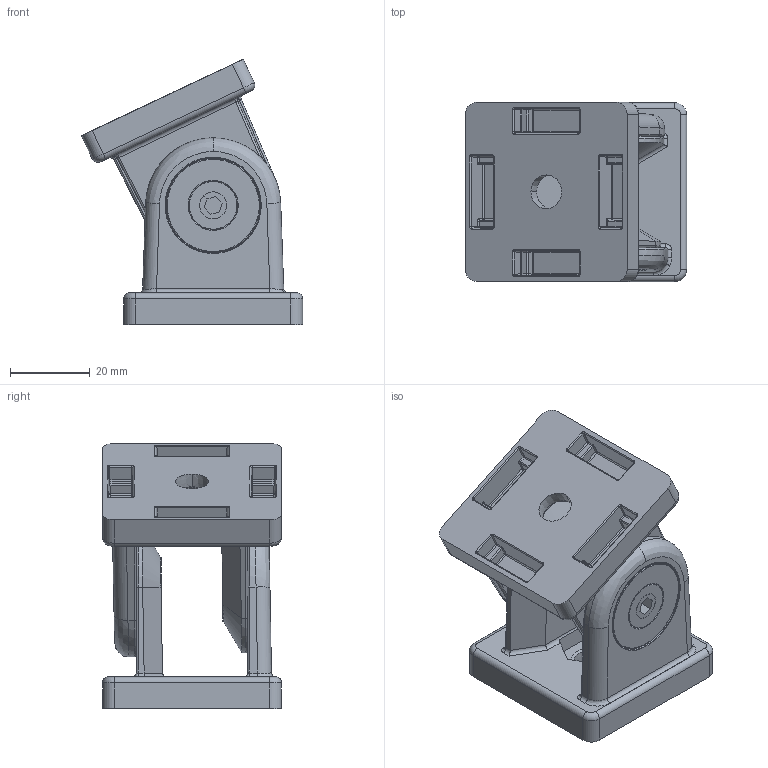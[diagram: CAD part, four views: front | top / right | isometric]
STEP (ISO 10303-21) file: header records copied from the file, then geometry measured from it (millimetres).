
FILE_DESCRIPTION (( 'STEP AP203' ), '1' );
FILE_NAME ('0110G4545.STEP', '2024-03-14T14:39:28', ( 'Windows-Benutzer' ), ( '' ), 'SwSTEP 2.0', 'SolidWorks 2023', '' );
FILE_SCHEMA (( 'CONFIG_CONTROL_DESIGN' ));
Length unit declared in the file: millimetre
Products named in the file (3): Gelenk2_Standard<Wie bearbeitet>; Gelenk1_Standard<Wie bearbeitet>; 0110G4545
Assembly tree (2 placements, depth 2):
  0110G4545
    Gelenk2_Standard<Wie bearbeitet>
    Gelenk1_Standard<Wie bearbeitet>
Bounding box: 55.65 x 45 x 66.73 mm (x, y, z)
Volume: 51912.2 mm3; surface area: 30821.4 mm2
Topology: 11 solids, 11 shells, 1302 faces, 2894 edges, 1596 vertices
Faces by surface type: cylinder 466, plane 266, torus 202, bspline 152, sphere 136, cone 80
Entity records: 40459 total; most frequent: CARTESIAN_POINT 12543, DIRECTION 6034, ORIENTED_EDGE 5692, EDGE_CURVE 2846, AXIS2_PLACEMENT_3D 2511, VERTEX_POINT 1596, EDGE_LOOP 1358, CIRCLE 1356
